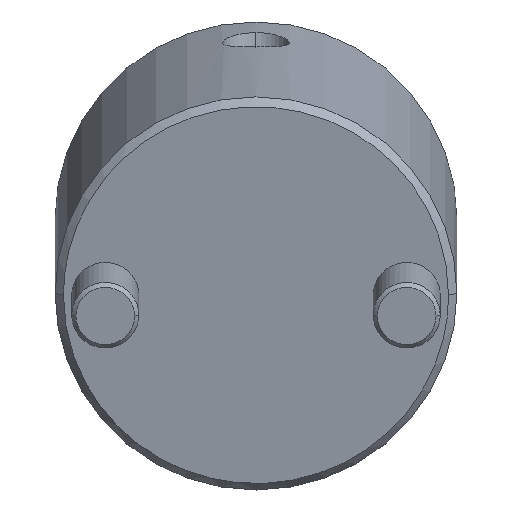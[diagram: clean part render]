
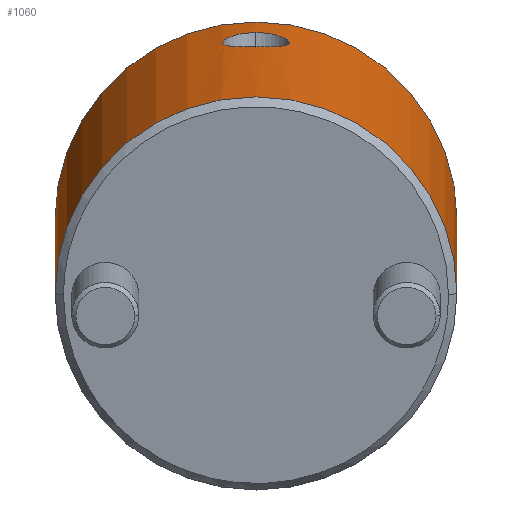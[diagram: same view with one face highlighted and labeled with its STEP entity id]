
A CAD part, front view. The second image highlights one B-rep face of the part: STEP entity #1060.
In plain terms, the highlighted cylindrical face has radius 24 mm (diameter 48 mm), a partial arc.
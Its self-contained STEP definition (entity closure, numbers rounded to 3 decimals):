
#802=CARTESIAN_POINT('Vertex',(0.,24.,1.)) ;
#805=CARTESIAN_POINT('Axis2P3D Location',(0.,0.,1.)) ;
#809=CARTESIAN_POINT('Vertex',(0.,-24.,1.)) ;
#961=CARTESIAN_POINT('Axis2P3D Location',(0.,0.,-2.25)) ;
#966=CARTESIAN_POINT('Line Origine',(0.,24.,-2.25)) ;
#970=CARTESIAN_POINT('Vertex',(0.,24.,44.)) ;
#973=CARTESIAN_POINT('Axis2P3D Location',(0.,0.,44.)) ;
#977=CARTESIAN_POINT('Vertex',(0.,-24.,44.)) ;
#980=CARTESIAN_POINT('Line Origine',(0.,-24.,-2.25)) ;
#992=CARTESIAN_POINT('Control Point',(24.,0.,37.874)) ;
#993=CARTESIAN_POINT('Control Point',(24.,0.58,37.874)) ;
#994=CARTESIAN_POINT('Control Point',(23.982,1.149,37.764)) ;
#995=CARTESIAN_POINT('Control Point',(23.948,1.695,37.545)) ;
#996=CARTESIAN_POINT('Control Point',(23.889,2.357,37.131)) ;
#997=CARTESIAN_POINT('Control Point',(23.824,2.905,36.568)) ;
#998=CARTESIAN_POINT('Control Point',(23.807,3.038,36.415)) ;
#999=CARTESIAN_POINT('Control Point',(23.775,3.282,36.096)) ;
#1000=CARTESIAN_POINT('Control Point',(23.746,3.487,35.749)) ;
#1001=CARTESIAN_POINT('Control Point',(23.732,3.579,35.57)) ;
#1002=CARTESIAN_POINT('Control Point',(23.707,3.741,35.203)) ;
#1003=CARTESIAN_POINT('Control Point',(23.688,3.859,34.82)) ;
#1004=CARTESIAN_POINT('Control Point',(23.68,3.907,34.626)) ;
#1005=CARTESIAN_POINT('Control Point',(23.668,3.979,34.233)) ;
#1006=CARTESIAN_POINT('Control Point',(23.663,4.005,33.833)) ;
#1007=CARTESIAN_POINT('Control Point',(23.663,4.006,33.637)) ;
#1008=CARTESIAN_POINT('Control Point',(23.667,3.985,33.241)) ;
#1009=CARTESIAN_POINT('Control Point',(23.678,3.917,32.853)) ;
#1010=CARTESIAN_POINT('Control Point',(23.686,3.872,32.663)) ;
#1011=CARTESIAN_POINT('Control Point',(23.713,3.702,32.1)) ;
#1012=CARTESIAN_POINT('Control Point',(23.754,3.434,31.578)) ;
#1013=CARTESIAN_POINT('Control Point',(23.786,3.212,31.254)) ;
#1014=CARTESIAN_POINT('Control Point',(23.844,2.759,30.739)) ;
#1015=CARTESIAN_POINT('Control Point',(23.9,2.208,30.333)) ;
#1016=CARTESIAN_POINT('Control Point',(23.922,1.956,30.182)) ;
#1017=CARTESIAN_POINT('Control Point',(23.961,1.43,29.928)) ;
#1018=CARTESIAN_POINT('Control Point',(23.987,0.866,29.773)) ;
#1019=CARTESIAN_POINT('Control Point',(23.996,0.579,29.721)) ;
#1020=CARTESIAN_POINT('Control Point',(24.,0.29,29.695)) ;
#1021=CARTESIAN_POINT('Control Point',(24.,0.,29.695)) ;
#1022=CARTESIAN_POINT('Vertex',(24.,0.,37.874)) ;
#1024=CARTESIAN_POINT('Vertex',(24.,0.,29.695)) ;
#1028=CARTESIAN_POINT('Control Point',(24.,0.,29.695)) ;
#1029=CARTESIAN_POINT('Control Point',(24.,-0.49,29.695)) ;
#1030=CARTESIAN_POINT('Control Point',(23.987,-0.974,29.768)) ;
#1031=CARTESIAN_POINT('Control Point',(23.963,-1.452,29.916)) ;
#1032=CARTESIAN_POINT('Control Point',(23.901,-2.25,30.307)) ;
#1033=CARTESIAN_POINT('Control Point',(23.826,-2.907,30.896)) ;
#1034=CARTESIAN_POINT('Control Point',(23.792,-3.165,31.192)) ;
#1035=CARTESIAN_POINT('Control Point',(23.73,-3.601,31.839)) ;
#1036=CARTESIAN_POINT('Control Point',(23.686,-3.87,32.576)) ;
#1037=CARTESIAN_POINT('Control Point',(23.671,-3.96,32.962)) ;
#1038=CARTESIAN_POINT('Control Point',(23.656,-4.048,33.759)) ;
#1039=CARTESIAN_POINT('Control Point',(23.674,-3.943,34.558)) ;
#1040=CARTESIAN_POINT('Control Point',(23.69,-3.845,34.946)) ;
#1041=CARTESIAN_POINT('Control Point',(23.725,-3.631,35.51)) ;
#1042=CARTESIAN_POINT('Control Point',(23.769,-3.321,36.027)) ;
#1043=CARTESIAN_POINT('Control Point',(23.785,-3.209,36.193)) ;
#1044=CARTESIAN_POINT('Control Point',(23.817,-2.963,36.511)) ;
#1045=CARTESIAN_POINT('Control Point',(23.85,-2.684,36.795)) ;
#1046=CARTESIAN_POINT('Control Point',(23.866,-2.537,36.927)) ;
#1047=CARTESIAN_POINT('Control Point',(23.897,-2.23,37.171)) ;
#1048=CARTESIAN_POINT('Control Point',(23.926,-1.899,37.376)) ;
#1049=CARTESIAN_POINT('Control Point',(23.939,-1.727,37.468)) ;
#1050=CARTESIAN_POINT('Control Point',(23.968,-1.296,37.665)) ;
#1051=CARTESIAN_POINT('Control Point',(23.988,-0.84,37.795)) ;
#1052=CARTESIAN_POINT('Control Point',(23.996,-0.563,37.848)) ;
#1053=CARTESIAN_POINT('Control Point',(24.,-0.283,37.874)) ;
#1054=CARTESIAN_POINT('Control Point',(24.,0.,37.874)) ;
#806=DIRECTION('Axis2P3D Direction',(0.,0.,1.)) ;
#962=DIRECTION('Axis2P3D Direction',(0.,-0.,1.)) ;
#963=DIRECTION('Axis2P3D XDirection',(0.,-1.,0.)) ;
#967=DIRECTION('Vector Direction',(0.,0.,1.)) ;
#974=DIRECTION('Axis2P3D Direction',(0.,-0.,1.)) ;
#981=DIRECTION('Vector Direction',(0.,0.,1.)) ;
#807=AXIS2_PLACEMENT_3D('Circle Axis2P3D',#805,#806,$) ;
#964=AXIS2_PLACEMENT_3D('Cylinder Axis2P3D',#961,#962,#963) ;
#975=AXIS2_PLACEMENT_3D('Circle Axis2P3D',#973,#974,$) ;
#986=ORIENTED_EDGE('',*,*,#972,.F.) ;
#987=ORIENTED_EDGE('',*,*,#979,.T.) ;
#988=ORIENTED_EDGE('',*,*,#984,.T.) ;
#989=ORIENTED_EDGE('',*,*,#811,.F.) ;
#1057=ORIENTED_EDGE('',*,*,#1026,.T.) ;
#1058=ORIENTED_EDGE('',*,*,#1055,.T.) ;
#1059=FACE_BOUND('',#1056,.T.) ;
#968=VECTOR('Line Direction',#967,1.) ;
#982=VECTOR('Line Direction',#981,1.) ;
#1060=ADVANCED_FACE('MANIFOLD_SOLID_BREP #1134',(#990,#1059),#965,.T.) ;
#991=B_SPLINE_CURVE_WITH_KNOTS('',5,(#992,#993,#994,#995,#996,#997,#998,#999,#1000,#1001,#1002,#1003,#1004,#1005,#1006,#1007,#1008,#1009,#1010,#1011,#1012,#1013,#1014,#1015,#1016,#1017,#1018,#1019,#1020,#1021),.UNSPECIFIED.,.F.,.U.,(6,3,3,3,3,3,3,3,3,6),(0.,4.127,5.522,6.925,8.324,9.701,11.081,13.863,15.95,18.011),.UNSPECIFIED.) ;
#1027=B_SPLINE_CURVE_WITH_KNOTS('',5,(#1028,#1029,#1030,#1031,#1032,#1033,#1034,#1035,#1036,#1037,#1038,#1039,#1040,#1041,#1042,#1043,#1044,#1045,#1046,#1047,#1048,#1049,#1050,#1051,#1052,#1053,#1054),.UNSPECIFIED.,.F.,.U.,(6,3,3,3,3,3,3,3,6),(0.,3.481,6.264,9.022,11.811,13.212,14.61,15.999,18.009),.UNSPECIFIED.) ;
#808=CIRCLE('generated circle',#807,24.) ;
#976=CIRCLE('generated circle',#975,24.) ;
#965=CYLINDRICAL_SURFACE('generated cylinder',#964,24.) ;
#811=EDGE_CURVE('',#803,#810,#808,.F.) ;
#972=EDGE_CURVE('',#971,#803,#969,.F.) ;
#979=EDGE_CURVE('',#971,#978,#976,.F.) ;
#984=EDGE_CURVE('',#978,#810,#983,.F.) ;
#1026=EDGE_CURVE('',#1023,#1025,#991,.T.) ;
#1055=EDGE_CURVE('',#1025,#1023,#1027,.T.) ;
#985=EDGE_LOOP('',(#986,#987,#988,#989)) ;
#1056=EDGE_LOOP('',(#1057,#1058)) ;
#990=FACE_OUTER_BOUND('',#985,.T.) ;
#969=LINE('Line',#966,#968) ;
#983=LINE('Line',#980,#982) ;
#803=VERTEX_POINT('',#802) ;
#810=VERTEX_POINT('',#809) ;
#971=VERTEX_POINT('',#970) ;
#978=VERTEX_POINT('',#977) ;
#1023=VERTEX_POINT('',#1022) ;
#1025=VERTEX_POINT('',#1024) ;
